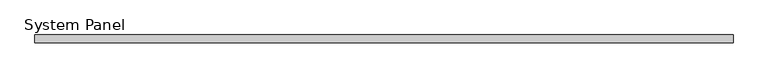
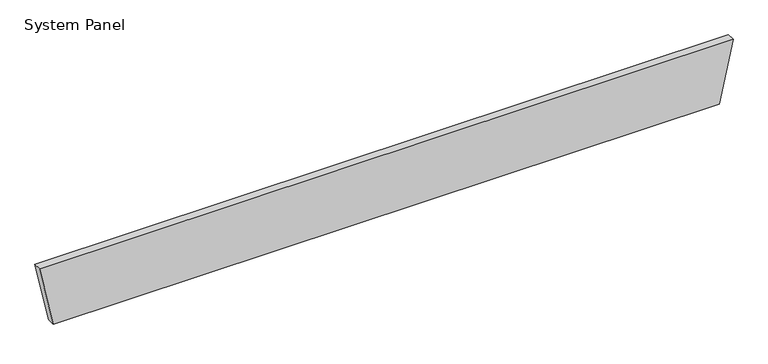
"""IFC4 building model written with IfcOpenShell, lengths in millimetres: plate geometry, System Panel : Equitilt_150mm_Plain_Surfmist."""

from ifc_helpers import new_model, si_unit, frame, origin, place, context, project, spatial, polyline, outline, extrude, source, transform, mapped, element, save


def system_panel_5a2396c1(model_context):
    return source(origin(), model_context, "Body", "SweptSolid", [
        extrude(outline(polyline([(0.0, -6260.8716619), (0.0, 6260.8716619), (1200.0, 6521.7433237), (1200.0, -6521.7433237), (0.0, -6260.8716619)])), frame((0.0, -150.0, 0.0), z_axis=(0.0, 1.0, 0.0), x_axis=(0.0, 0.0, 1.0)), (0.0, 0.0, 1.0), 150.0),
    ])


if __name__ == "__main__":
    model = new_model("IFC4")
    model_context = context("Model", 3, world=origin())
    ifc_project = project(units=[si_unit("LENGTHUNIT", "METRE", prefix="MILLI")], contexts=[model_context])
    site = spatial("IfcSite", under=ifc_project)
    building = spatial("IfcBuilding", under=site)
    placement = place(None, origin())
    system_panel_shape = system_panel_5a2396c1(model_context)
    element("IfcPlate", 1, ObjectType="System Panel : Equitilt_150mm_Plain_Surfmist", at=placement, inside=building, context=model_context, shape_type="MappedRepresentation", body=[
        mapped(system_panel_shape, transform((0.0, 0.0, 0.0), x_axis=(1.0, 0.0, 0.0), y_axis=(0.0, 1.0, 0.0), z_axis=(0.0, 0.0, 1.0))),
    ])
    save(model, "model.ifc")
